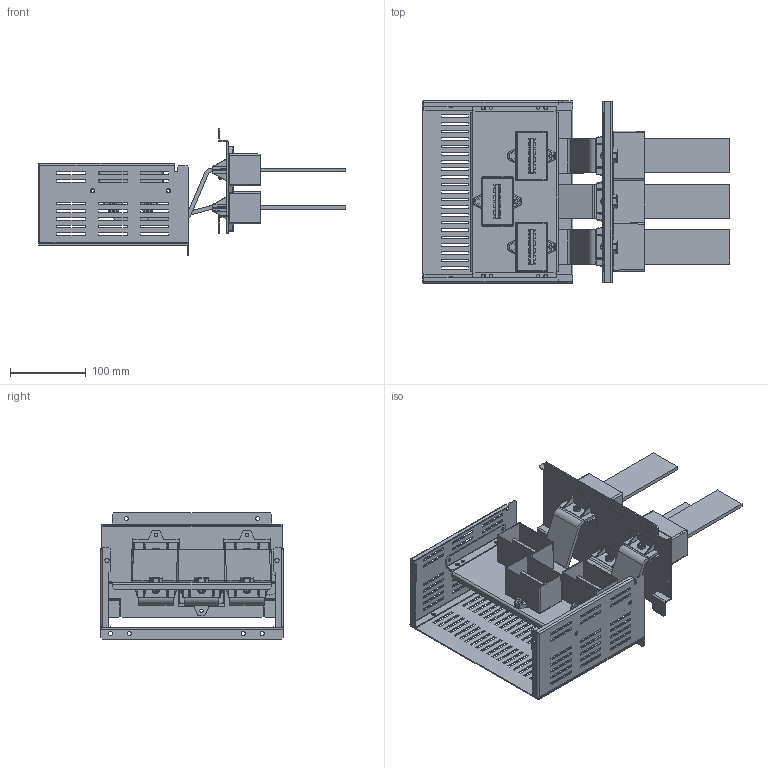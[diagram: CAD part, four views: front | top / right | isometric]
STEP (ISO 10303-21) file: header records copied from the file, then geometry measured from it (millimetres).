
FILE_DESCRIPTION(('CAx-IF Rec.Pracs.---Model Styling and Organization---1.2---2011-12-15','CAx-IF Rec.Pracs.---Geometric and Assembly Validation Properties---4.1---2014-06-16','CAx-IF Rec.Pracs.---PMI Polyline Presentation---2.0---2013-05-24'),'2;1');
FILE_NAME('R5M2W5MST3B.stp','2021-05-05T13:06:50+03:00',(''),(''),'STEP Interface 4.4 by CT CoreTechnologie','3D_Evolution4.4 by CT CoreTechnologie','');
FILE_SCHEMA(('AUTOMOTIVE_DESIGN { 1 0 10303 214 1 1 1 1 }'));
Length unit declared in the file: millimetre
Products named in the file (11): R5M2W5MST3B; RB.1583.00.00.1_-02; RB.1583.00.00.1_-03; V02.ÒÏÀ.08.0041.00.00.0_¤«ï ¨­áâàãªæ¨¨ ¯ «¥æ; V02.ÒÏÀ.08.0042.00.00.0_¤«ï ¨­áâàãªæ¨¨ ¡¥§ ¯ «ìæ; RB.1263.00.00.0_-01; RB.1217.00.00.0_-00; RB.1458.00.00.0_-03; RB.1263.00.00.0_-00; RB.1410.00.00.1_-02; RB.1242.00.00.0_-02
Assembly tree (22 placements, depth 2):
  R5M2W5MST3B
    RB.1583.00.00.1_-02  x2
    RB.1583.00.00.1_-03
    V02.ÒÏÀ.08.0041.00.00.0_¤«ï ¨­áâàãªæ¨¨ ¯ «¥æ  x6
    V02.ÒÏÀ.08.0042.00.00.0_¤«ï ¨­áâàãªæ¨¨ ¡¥§ ¯ «ìæ  x6
    RB.1263.00.00.0_-01
    RB.1217.00.00.0_-00  x2
    RB.1458.00.00.0_-03
    RB.1263.00.00.0_-00
    RB.1410.00.00.1_-02
    RB.1242.00.00.0_-02
Bounding box: 405 x 240 x 166.75 mm (x, y, z)
Surface area: 605846.3 mm2 (no closed solid volume)
Topology: 0 solids, 22 shells, 3154 faces, 8198 edges, 5070 vertices
Faces by surface type: plane 1448, bspline 914, cylinder 792
Entity records: 49924 total; most frequent: CARTESIAN_POINT 18126, ORIENTED_EDGE 6610, DIRECTION 6066, EDGE_CURVE 3305, VECTOR 2506, LINE 2506, VERTEX_POINT 2126, AXIS2_PLACEMENT_3D 1780
